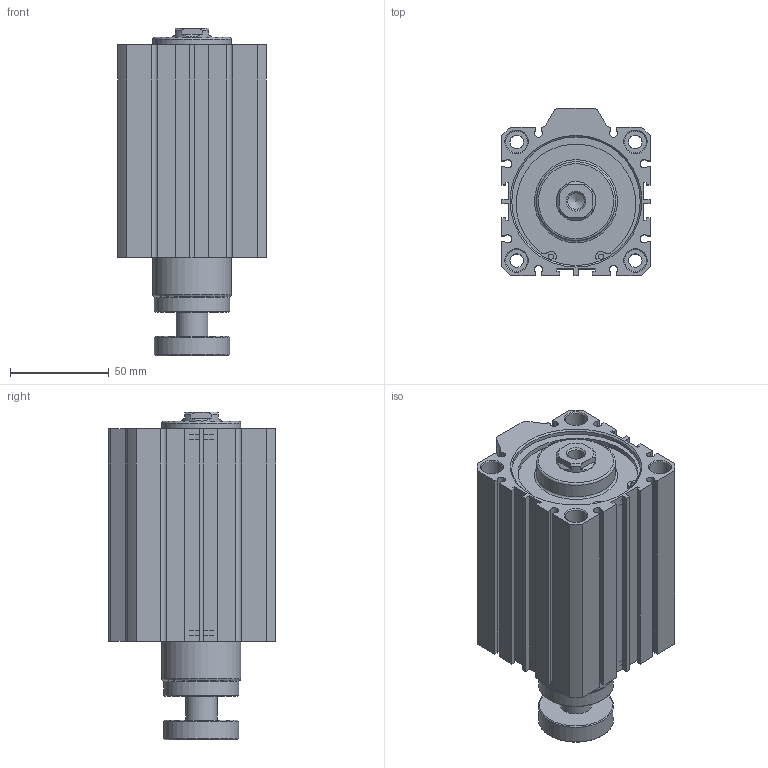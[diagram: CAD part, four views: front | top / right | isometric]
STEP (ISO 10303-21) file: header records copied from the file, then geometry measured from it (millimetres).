
FILE_DESCRIPTION((''),'2;1');
FILE_NAME('I:\3D電子目錄\氣缸\JDAR\JDAR\JDAR63\JDAR63x75.stp','2007-03-14T11:51:32',('662F206'),(''),'Autodesk Inventor 11','Autodesk Inventor 11','');
FILE_SCHEMA(('AUTOMOTIVE_DESIGN { 1 0 10303 214 1 1 1 1 }'));
Length unit declared in the file: millimetre
Products named in the file (3): JDAR63; R 形環 65
Assembly tree (3 placements, depth 2):
  JDAR63
    JDAR63
    R 形環 65  x2
Bounding box: 75 x 84.5 x 165.8 mm (x, y, z)
Volume: 607074.8 mm3; surface area: 86173.7 mm2
Topology: 3 solids, 3 shells, 197 faces, 484 edges, 317 vertices
Faces by surface type: plane 110, cylinder 58, cone 23, bspline 4, torus 2
Full cylindrical faces by diameter (mm): 2.7 x4, 3 x2, 6.8 x4, 11 x8, 16 x1, 20 x1, 38 x2, 40 x2, 65 x4, 68 x2
Entity records: 5335 total; most frequent: CARTESIAN_POINT 1013, DIRECTION 898, ORIENTED_EDGE 788, EDGE_CURVE 394, AXIS2_PLACEMENT_3D 325, VERTEX_POINT 290, EDGE_LOOP 274, VECTOR 248
